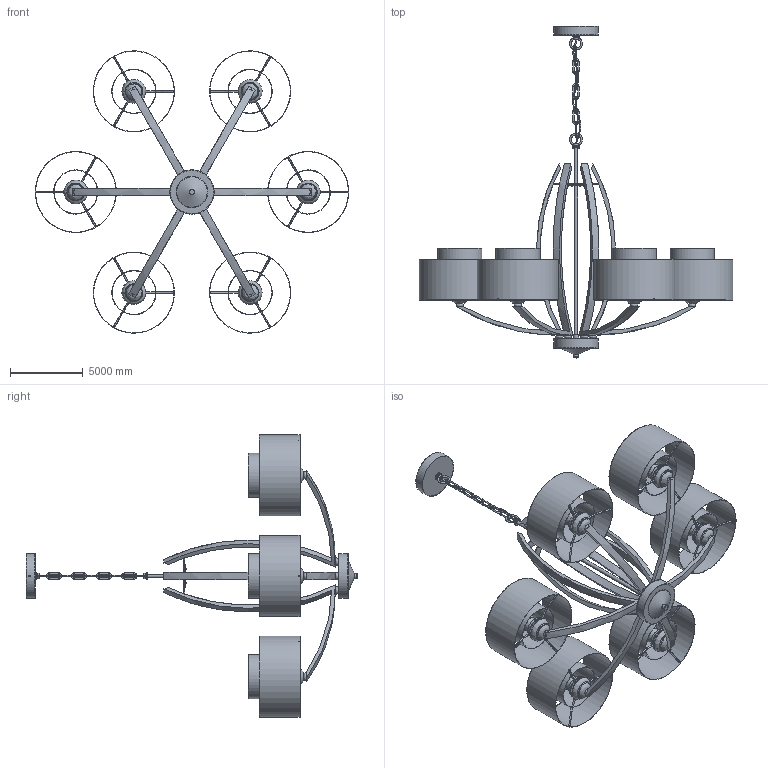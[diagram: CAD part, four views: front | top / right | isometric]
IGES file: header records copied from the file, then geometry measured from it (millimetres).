
Global section: file name: Stiffel Avira Chandelier-6heads; native system: AutoCAD 2022 - 简体中文 (Simplified Chinese),62HAuto; preprocessor: desk Translation Framework DWG producer (atf_dwg_producer); organization: unknown; date: 20251113.170355; units: inch
Bounding box: 21590 x 22856.31 x 19445.81 mm (x, y, z)
Volume: 40705143971 mm3; surface area: 1456341293.1 mm2
Topology: 116 solids, 122 shells, 1005 faces, 2350 edges, 1666 vertices
Faces by surface type: bspline 1005
